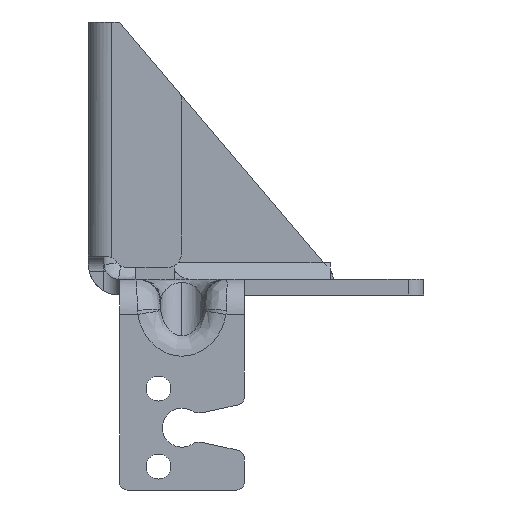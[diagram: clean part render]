
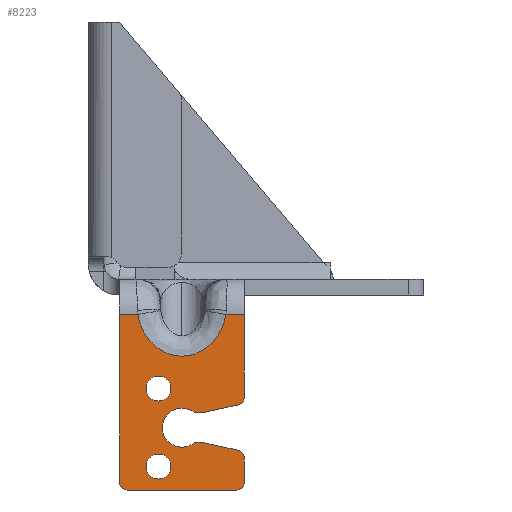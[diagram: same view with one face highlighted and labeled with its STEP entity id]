
A CAD part, front view. The second image highlights one B-rep face of the part: STEP entity #8223.
In plain terms, the highlighted planar face has unit normal (0, -1, 0).
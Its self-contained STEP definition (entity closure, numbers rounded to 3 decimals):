
#6933=AXIS2_PLACEMENT_3D('Circle Axis2P3D',#6931,#6932,$) ;
#6995=AXIS2_PLACEMENT_3D('Circle Axis2P3D',#6993,#6994,$) ;
#7050=AXIS2_PLACEMENT_3D('Circle Axis2P3D',#7048,#7049,$) ;
#7173=AXIS2_PLACEMENT_3D('Circle Axis2P3D',#7171,#7172,$) ;
#7266=AXIS2_PLACEMENT_3D('Circle Axis2P3D',#7264,#7265,$) ;
#7290=AXIS2_PLACEMENT_3D('Circle Axis2P3D',#7288,#7289,$) ;
#8166=AXIS2_PLACEMENT_3D('Plane Axis2P3D',#8163,#8164,#8165) ;
#8189=AXIS2_PLACEMENT_3D('Circle Axis2P3D',#8187,#8188,$) ;
#8198=AXIS2_PLACEMENT_3D('Circle Axis2P3D',#8196,#8197,$) ;
#8207=AXIS2_PLACEMENT_3D('Circle Axis2P3D',#8205,#8206,$) ;
#8216=AXIS2_PLACEMENT_3D('Circle Axis2P3D',#8214,#8215,$) ;
#4116=CARTESIAN_POINT('Vertex',(2431.93,349.507,529.794)) ;
#5294=CARTESIAN_POINT('Vertex',(2443.236,349.507,529.794)) ;
#5449=CARTESIAN_POINT('Control Point',(2443.236,349.507,529.794)) ;
#5450=CARTESIAN_POINT('Control Point',(2443.084,349.507,528.925)) ;
#5451=CARTESIAN_POINT('Control Point',(2442.806,349.507,528.078)) ;
#5452=CARTESIAN_POINT('Control Point',(2442.402,349.507,527.275)) ;
#5453=CARTESIAN_POINT('Control Point',(2441.269,349.507,525.737)) ;
#5454=CARTESIAN_POINT('Control Point',(2439.622,349.507,524.726)) ;
#5455=CARTESIAN_POINT('Control Point',(2438.624,349.507,524.399)) ;
#5456=CARTESIAN_POINT('Control Point',(2436.96,349.507,524.323)) ;
#5457=CARTESIAN_POINT('Control Point',(2435.428,349.507,524.875)) ;
#5458=CARTESIAN_POINT('Control Point',(2434.885,349.507,525.167)) ;
#5459=CARTESIAN_POINT('Control Point',(2433.662,349.507,526.055)) ;
#5460=CARTESIAN_POINT('Control Point',(2432.765,349.507,527.275)) ;
#5461=CARTESIAN_POINT('Control Point',(2432.36,349.507,528.078)) ;
#5462=CARTESIAN_POINT('Control Point',(2432.082,349.507,528.925)) ;
#5463=CARTESIAN_POINT('Control Point',(2431.93,349.507,529.794)) ;
#6564=CARTESIAN_POINT('Vertex',(2429.583,349.507,529.794)) ;
#6568=CARTESIAN_POINT('Control Point',(2429.583,349.507,529.794)) ;
#6569=CARTESIAN_POINT('Control Point',(2430.365,349.507,529.794)) ;
#6570=CARTESIAN_POINT('Control Point',(2431.148,349.507,529.794)) ;
#6571=CARTESIAN_POINT('Control Point',(2431.93,349.507,529.794)) ;
#6703=CARTESIAN_POINT('Line Origine',(2449.083,349.507,529.794)) ;
#6707=CARTESIAN_POINT('Vertex',(2445.583,349.507,529.794)) ;
#6928=CARTESIAN_POINT('Vertex',(2444.799,349.507,512.376)) ;
#6931=CARTESIAN_POINT('Axis2P3D Location',(2444.583,349.507,511.399)) ;
#6935=CARTESIAN_POINT('Vertex',(2445.583,349.507,511.399)) ;
#6955=CARTESIAN_POINT('Line Origine',(2445.583,349.507,509.846)) ;
#6959=CARTESIAN_POINT('Vertex',(2445.583,349.507,508.294)) ;
#6993=CARTESIAN_POINT('Axis2P3D Location',(2444.583,349.507,508.294)) ;
#6997=CARTESIAN_POINT('Vertex',(2444.583,349.507,507.294)) ;
#7023=CARTESIAN_POINT('Vertex',(2430.583,349.507,507.294)) ;
#7031=CARTESIAN_POINT('Line Origine',(2437.583,349.507,507.294)) ;
#7048=CARTESIAN_POINT('Axis2P3D Location',(2430.583,349.507,508.294)) ;
#7052=CARTESIAN_POINT('Vertex',(2429.583,349.507,508.294)) ;
#7079=CARTESIAN_POINT('Line Origine',(2429.583,349.507,519.044)) ;
#7136=CARTESIAN_POINT('Line Origine',(2445.583,349.507,524.491)) ;
#7140=CARTESIAN_POINT('Vertex',(2445.583,349.507,519.188)) ;
#7171=CARTESIAN_POINT('Axis2P3D Location',(2444.583,349.507,519.188)) ;
#7175=CARTESIAN_POINT('Vertex',(2444.799,349.507,518.212)) ;
#7195=CARTESIAN_POINT('Line Origine',(2442.504,349.507,517.703)) ;
#7199=CARTESIAN_POINT('Vertex',(2440.208,349.507,517.194)) ;
#7233=CARTESIAN_POINT('Line Origine',(2439.708,349.507,517.194)) ;
#7237=CARTESIAN_POINT('Vertex',(2439.208,349.507,517.194)) ;
#7264=CARTESIAN_POINT('Axis2P3D Location',(2437.583,349.507,515.294)) ;
#7268=CARTESIAN_POINT('Vertex',(2435.958,349.507,513.394)) ;
#7288=CARTESIAN_POINT('Axis2P3D Location',(2437.583,349.507,515.294)) ;
#7292=CARTESIAN_POINT('Vertex',(2439.208,349.507,513.394)) ;
#7319=CARTESIAN_POINT('Line Origine',(2439.708,349.507,513.394)) ;
#7323=CARTESIAN_POINT('Vertex',(2440.208,349.507,513.394)) ;
#7355=CARTESIAN_POINT('Line Origine',(2442.504,349.507,512.885)) ;
#8163=CARTESIAN_POINT('Axis2P3D Location',(-20.6,349.507,9.15)) ;
#8187=CARTESIAN_POINT('Axis2P3D Location',(2434.583,349.507,520.294)) ;
#8191=CARTESIAN_POINT('Vertex',(2436.183,349.507,520.294)) ;
#8193=CARTESIAN_POINT('Vertex',(2432.983,349.507,520.294)) ;
#8196=CARTESIAN_POINT('Axis2P3D Location',(2434.583,349.507,520.294)) ;
#8205=CARTESIAN_POINT('Axis2P3D Location',(2434.583,349.507,510.294)) ;
#8209=CARTESIAN_POINT('Vertex',(2436.183,349.507,510.294)) ;
#8211=CARTESIAN_POINT('Vertex',(2432.983,349.507,510.294)) ;
#8214=CARTESIAN_POINT('Axis2P3D Location',(2434.583,349.507,510.294)) ;
#6704=DIRECTION('Vector Direction',(1.,0.,0.)) ;
#6932=DIRECTION('Axis2P3D Direction',(-0.,1.,0.)) ;
#6956=DIRECTION('Vector Direction',(0.,0.,1.)) ;
#6994=DIRECTION('Axis2P3D Direction',(0.,-1.,0.)) ;
#7032=DIRECTION('Vector Direction',(-1.,0.,0.)) ;
#7049=DIRECTION('Axis2P3D Direction',(0.,-1.,0.)) ;
#7080=DIRECTION('Vector Direction',(0.,0.,-1.)) ;
#7137=DIRECTION('Vector Direction',(0.,0.,1.)) ;
#7172=DIRECTION('Axis2P3D Direction',(0.,1.,0.)) ;
#7196=DIRECTION('Vector Direction',(0.976,0.,0.216)) ;
#7234=DIRECTION('Vector Direction',(1.,0.,0.)) ;
#7265=DIRECTION('Axis2P3D Direction',(0.,-1.,0.)) ;
#7289=DIRECTION('Axis2P3D Direction',(0.,-1.,0.)) ;
#7320=DIRECTION('Vector Direction',(1.,0.,0.)) ;
#7356=DIRECTION('Vector Direction',(0.976,0.,-0.216)) ;
#8164=DIRECTION('Axis2P3D Direction',(0.,-1.,0.)) ;
#8165=DIRECTION('Axis2P3D XDirection',(1.,0.,0.)) ;
#8188=DIRECTION('Axis2P3D Direction',(0.,-1.,0.)) ;
#8197=DIRECTION('Axis2P3D Direction',(0.,-1.,0.)) ;
#8206=DIRECTION('Axis2P3D Direction',(0.,-1.,0.)) ;
#8215=DIRECTION('Axis2P3D Direction',(0.,-1.,0.)) ;
#6705=VECTOR('Line Direction',#6704,1.) ;
#6957=VECTOR('Line Direction',#6956,1.) ;
#7033=VECTOR('Line Direction',#7032,1.) ;
#7081=VECTOR('Line Direction',#7080,1.) ;
#7138=VECTOR('Line Direction',#7137,1.) ;
#7197=VECTOR('Line Direction',#7196,1.) ;
#7235=VECTOR('Line Direction',#7234,1.) ;
#7321=VECTOR('Line Direction',#7320,1.) ;
#7357=VECTOR('Line Direction',#7356,1.) ;
#8169=ORIENTED_EDGE('',*,*,#7142,.T.) ;
#8170=ORIENTED_EDGE('',*,*,#6709,.T.) ;
#8171=ORIENTED_EDGE('',*,*,#5464,.T.) ;
#8172=ORIENTED_EDGE('',*,*,#6572,.T.) ;
#8173=ORIENTED_EDGE('',*,*,#7083,.T.) ;
#8174=ORIENTED_EDGE('',*,*,#7054,.F.) ;
#8175=ORIENTED_EDGE('',*,*,#7035,.F.) ;
#8176=ORIENTED_EDGE('',*,*,#6999,.F.) ;
#8177=ORIENTED_EDGE('',*,*,#6961,.T.) ;
#8178=ORIENTED_EDGE('',*,*,#6937,.F.) ;
#8179=ORIENTED_EDGE('',*,*,#7359,.F.) ;
#8180=ORIENTED_EDGE('',*,*,#7325,.F.) ;
#8181=ORIENTED_EDGE('',*,*,#7294,.F.) ;
#8182=ORIENTED_EDGE('',*,*,#7270,.F.) ;
#8183=ORIENTED_EDGE('',*,*,#7239,.F.) ;
#8184=ORIENTED_EDGE('',*,*,#7201,.F.) ;
#8185=ORIENTED_EDGE('',*,*,#7177,.F.) ;
#8202=ORIENTED_EDGE('',*,*,#8195,.F.) ;
#8203=ORIENTED_EDGE('',*,*,#8200,.F.) ;
#8220=ORIENTED_EDGE('',*,*,#8213,.F.) ;
#8221=ORIENTED_EDGE('',*,*,#8218,.F.) ;
#8204=FACE_BOUND('',#8201,.T.) ;
#8222=FACE_BOUND('',#8219,.T.) ;
#8223=ADVANCED_FACE('\X2\51E04F554F53\X0\.14.1',(#8186,#8204,#8222),#8167,.T.) ;
#5448=B_SPLINE_CURVE_WITH_KNOTS('',5,(#5449,#5450,#5451,#5452,#5453,#5454,#5455,#5456,#5457,#5458,#5459,#5460,#5461,#5462,#5463),.UNSPECIFIED.,.F.,.U.,(6,3,3,3,6),(5.126,8.521,12.303,14.602,17.997),.UNSPECIFIED.) ;
#6567=B_SPLINE_CURVE_WITH_KNOTS('',3,(#6568,#6569,#6570,#6571),.UNSPECIFIED.,.F.,.U.,(4,4),(0.,3.319),.UNSPECIFIED.) ;
#6934=CIRCLE('generated circle',#6933,1.) ;
#6996=CIRCLE('generated circle',#6995,1.) ;
#7051=CIRCLE('generated circle',#7050,1.) ;
#7174=CIRCLE('generated circle',#7173,1.) ;
#7267=CIRCLE('generated circle',#7266,2.5) ;
#7291=CIRCLE('generated circle',#7290,2.5) ;
#8190=CIRCLE('generated circle',#8189,1.6) ;
#8199=CIRCLE('generated circle',#8198,1.6) ;
#8208=CIRCLE('generated circle',#8207,1.6) ;
#8217=CIRCLE('generated circle',#8216,1.6) ;
#5464=EDGE_CURVE('',#5295,#4117,#5448,.T.) ;
#6572=EDGE_CURVE('',#4117,#6565,#6567,.F.) ;
#6709=EDGE_CURVE('',#6708,#5295,#6706,.F.) ;
#6937=EDGE_CURVE('',#6929,#6936,#6934,.T.) ;
#6961=EDGE_CURVE('',#6960,#6936,#6958,.T.) ;
#6999=EDGE_CURVE('',#6960,#6998,#6996,.F.) ;
#7035=EDGE_CURVE('',#6998,#7024,#7034,.T.) ;
#7054=EDGE_CURVE('',#7024,#7053,#7051,.F.) ;
#7083=EDGE_CURVE('',#6565,#7053,#7082,.T.) ;
#7142=EDGE_CURVE('',#7141,#6708,#7139,.T.) ;
#7177=EDGE_CURVE('',#7141,#7176,#7174,.T.) ;
#7201=EDGE_CURVE('',#7176,#7200,#7198,.F.) ;
#7239=EDGE_CURVE('',#7200,#7238,#7236,.F.) ;
#7270=EDGE_CURVE('',#7238,#7269,#7267,.T.) ;
#7294=EDGE_CURVE('',#7269,#7293,#7291,.T.) ;
#7325=EDGE_CURVE('',#7293,#7324,#7322,.T.) ;
#7359=EDGE_CURVE('',#7324,#6929,#7358,.T.) ;
#8195=EDGE_CURVE('',#8192,#8194,#8190,.T.) ;
#8200=EDGE_CURVE('',#8194,#8192,#8199,.T.) ;
#8213=EDGE_CURVE('',#8210,#8212,#8208,.T.) ;
#8218=EDGE_CURVE('',#8212,#8210,#8217,.T.) ;
#8168=EDGE_LOOP('',(#8169,#8170,#8171,#8172,#8173,#8174,#8175,#8176,#8177,#8178,#8179,#8180,#8181,#8182,#8183,#8184,#8185)) ;
#8201=EDGE_LOOP('',(#8202,#8203)) ;
#8219=EDGE_LOOP('',(#8220,#8221)) ;
#8186=FACE_OUTER_BOUND('',#8168,.T.) ;
#6706=LINE('Line',#6703,#6705) ;
#6958=LINE('Line',#6955,#6957) ;
#7034=LINE('Line',#7031,#7033) ;
#7082=LINE('Line',#7079,#7081) ;
#7139=LINE('Line',#7136,#7138) ;
#7198=LINE('Line',#7195,#7197) ;
#7236=LINE('Line',#7233,#7235) ;
#7322=LINE('Line',#7319,#7321) ;
#7358=LINE('Line',#7355,#7357) ;
#8167=PLANE('Plane',#8166) ;
#4117=VERTEX_POINT('',#4116) ;
#5295=VERTEX_POINT('',#5294) ;
#6565=VERTEX_POINT('',#6564) ;
#6708=VERTEX_POINT('',#6707) ;
#6929=VERTEX_POINT('',#6928) ;
#6936=VERTEX_POINT('',#6935) ;
#6960=VERTEX_POINT('',#6959) ;
#6998=VERTEX_POINT('',#6997) ;
#7024=VERTEX_POINT('',#7023) ;
#7053=VERTEX_POINT('',#7052) ;
#7141=VERTEX_POINT('',#7140) ;
#7176=VERTEX_POINT('',#7175) ;
#7200=VERTEX_POINT('',#7199) ;
#7238=VERTEX_POINT('',#7237) ;
#7269=VERTEX_POINT('',#7268) ;
#7293=VERTEX_POINT('',#7292) ;
#7324=VERTEX_POINT('',#7323) ;
#8192=VERTEX_POINT('',#8191) ;
#8194=VERTEX_POINT('',#8193) ;
#8210=VERTEX_POINT('',#8209) ;
#8212=VERTEX_POINT('',#8211) ;
